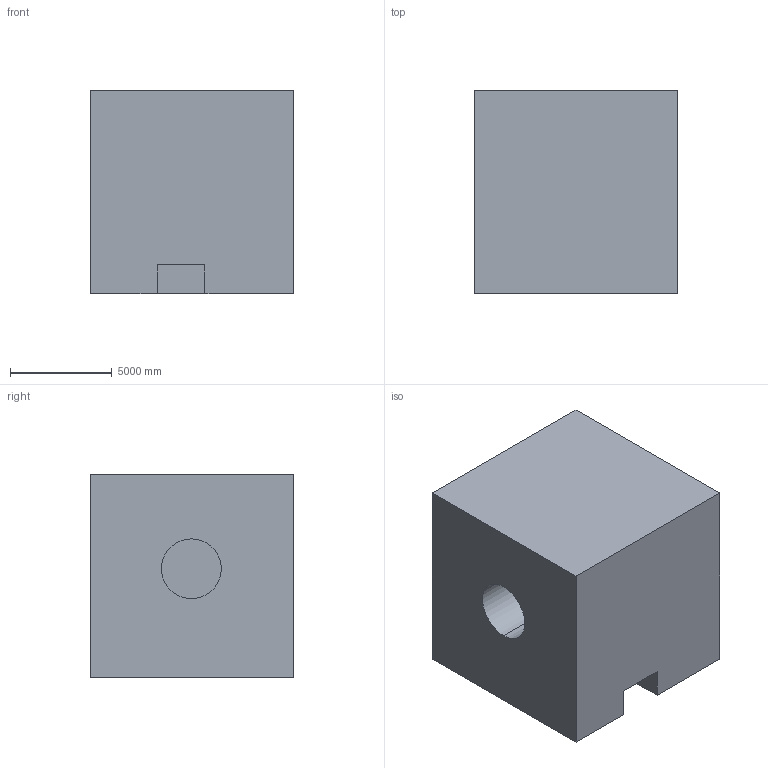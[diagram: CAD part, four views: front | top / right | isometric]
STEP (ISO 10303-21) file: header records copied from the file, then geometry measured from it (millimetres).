
FILE_DESCRIPTION (( 'STEP AP203' ), '1' );
FILE_NAME ('182.STEP', '2022-07-28T13:50:07', ( 'user' ), ( '' ), 'SwSTEP 2.0', 'SolidWorks 2021', '' );
FILE_SCHEMA (( 'CONFIG_CONTROL_DESIGN' ));
Length unit declared in the file: centimetre
Products named in the file (1): 182
Bounding box: 10000 x 10000 x 10000 mm (x, y, z)
Volume: 929792713430.5 mm3; surface area: 690069100.4 mm2
Topology: 1 solids, 1 shells, 13 faces, 30 edges, 20 vertices
Faces by surface type: plane 11, cylinder 2
Entity records: 445 total; most frequent: CARTESIAN_POINT 64, DIRECTION 62, ORIENTED_EDGE 60, EDGE_CURVE 30, VECTOR 26, LINE 26, VERTEX_POINT 20, AXIS2_PLACEMENT_3D 18
